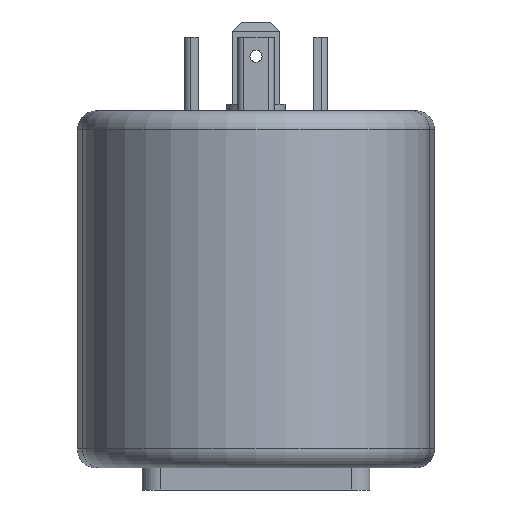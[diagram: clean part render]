
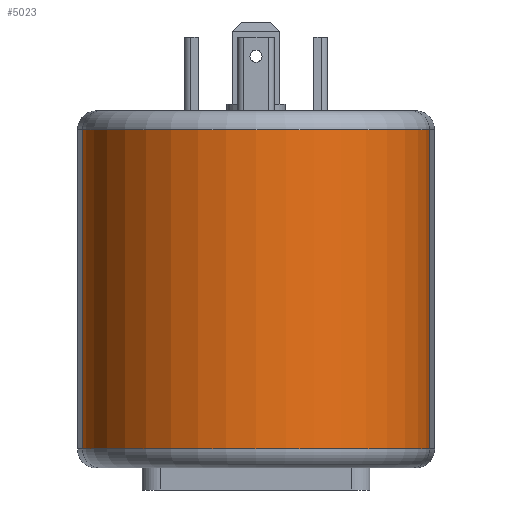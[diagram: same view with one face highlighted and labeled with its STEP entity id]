
A CAD part, front view. The second image highlights one B-rep face of the part: STEP entity #5023.
In plain terms, the highlighted cylindrical face has radius 22.85 mm (diameter 45.7 mm), a partial arc.
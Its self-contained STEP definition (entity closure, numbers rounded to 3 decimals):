
#337=FACE_OUTER_BOUND('',#609,.T.);
#609=EDGE_LOOP('',(#3341,#3342,#3343,#3344));
#947=LINE('',#7093,#1514);
#948=LINE('',#7096,#1515);
#1514=VECTOR('',#5718,42.);
#1515=VECTOR('',#5721,42.);
#2081=CIRCLE('',#5310,22.85);
#2082=CIRCLE('',#5311,22.85);
#2183=VERTEX_POINT('',#7089);
#2184=VERTEX_POINT('',#7090);
#2185=VERTEX_POINT('',#7092);
#2186=VERTEX_POINT('',#7094);
#2645=EDGE_CURVE('',#2183,#2184,#2081,.T.);
#2646=EDGE_CURVE('',#2183,#2185,#947,.T.);
#2647=EDGE_CURVE('',#2186,#2185,#2082,.T.);
#2648=EDGE_CURVE('',#2186,#2184,#948,.T.);
#3341=ORIENTED_EDGE('',*,*,#2645,.F.);
#3342=ORIENTED_EDGE('',*,*,#2646,.T.);
#3343=ORIENTED_EDGE('',*,*,#2647,.F.);
#3344=ORIENTED_EDGE('',*,*,#2648,.T.);
#4733=CYLINDRICAL_SURFACE('',#5309,22.85);
#5023=ADVANCED_FACE('',(#337),#4733,.T.);
#5309=AXIS2_PLACEMENT_3D('',#7088,#5714,#5715);
#5310=AXIS2_PLACEMENT_3D('',#7091,#5716,#5717);
#5311=AXIS2_PLACEMENT_3D('',#7095,#5719,#5720);
#5714=DIRECTION('center_axis',(0.,0.,1.));
#5715=DIRECTION('ref_axis',(-1.,-0.027,0.));
#5716=DIRECTION('center_axis',(0.,0.,-1.));
#5717=DIRECTION('ref_axis',(0.,-1.,0.));
#5718=DIRECTION('',(0.,0.,1.));
#5719=DIRECTION('center_axis',(0.,0.,1.));
#5720=DIRECTION('ref_axis',(0.,-1.,0.));
#5721=DIRECTION('',(0.,0.,-1.));
#7088=CARTESIAN_POINT('Origin',(0.,0.,0.));
#7089=CARTESIAN_POINT('',(22.841,-0.624,-21.));
#7090=CARTESIAN_POINT('',(-22.841,-0.624,-21.));
#7091=CARTESIAN_POINT('Origin',(0.,0.,-21.));
#7092=CARTESIAN_POINT('',(22.841,-0.624,21.));
#7093=CARTESIAN_POINT('',(22.841,-0.624,0.));
#7094=CARTESIAN_POINT('',(-22.841,-0.624,21.));
#7095=CARTESIAN_POINT('Origin',(0.,0.,21.));
#7096=CARTESIAN_POINT('',(-22.841,-0.624,0.));
